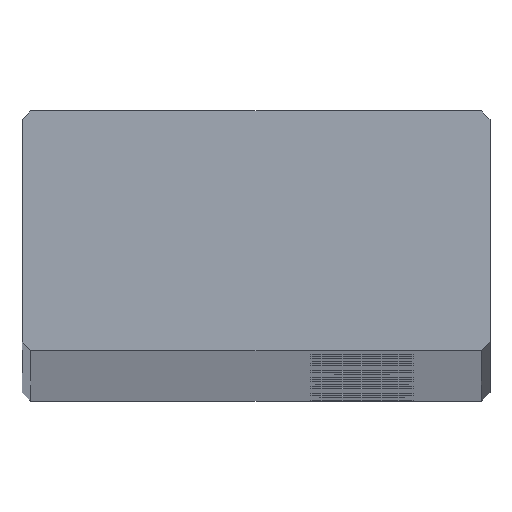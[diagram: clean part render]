
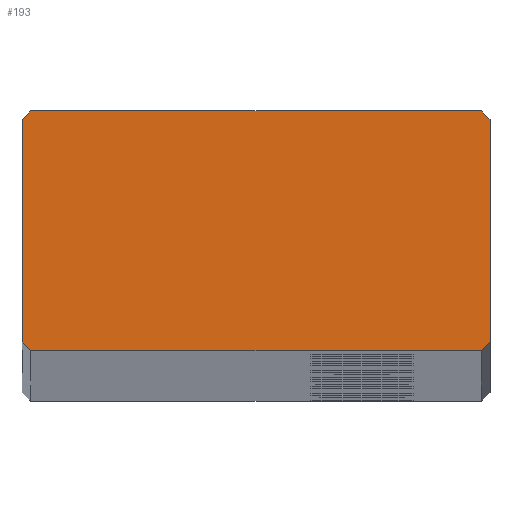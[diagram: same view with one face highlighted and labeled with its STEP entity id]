
A CAD part, top view. The second image highlights one B-rep face of the part: STEP entity #193.
In plain terms, the highlighted planar face has unit normal (0, 0, 1).
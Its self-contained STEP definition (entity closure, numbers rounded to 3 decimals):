
#193=ADVANCED_FACE('',(#498),#499,.T.);
#498=FACE_OUTER_BOUND('',#804,.T.);
#499=PLANE('',#805);
#804=EDGE_LOOP('',(#1722,#1723,#1724,#1725,#1726,#1727,#1728,#1729));
#805=AXIS2_PLACEMENT_3D('',#1730,#1731,#1732);
#1722=ORIENTED_EDGE('',*,*,#2008,.F.);
#1723=ORIENTED_EDGE('',*,*,#2030,.F.);
#1724=ORIENTED_EDGE('',*,*,#2027,.F.);
#1725=ORIENTED_EDGE('',*,*,#2024,.F.);
#1726=ORIENTED_EDGE('',*,*,#2021,.F.);
#1727=ORIENTED_EDGE('',*,*,#2018,.F.);
#1728=ORIENTED_EDGE('',*,*,#2015,.F.);
#1729=ORIENTED_EDGE('',*,*,#2012,.F.);
#1730=CARTESIAN_POINT('',(0.,8.2,1976.0));
#1731=DIRECTION('',(0.0,0.0,1.0));
#1732=DIRECTION('',(1.0,0.0,0.0));
#2008=EDGE_CURVE('',#2472,#2473,#2474,.T.);
#2012=EDGE_CURVE('',#2473,#2480,#2481,.T.);
#2015=EDGE_CURVE('',#2480,#2485,#2486,.T.);
#2018=EDGE_CURVE('',#2485,#2490,#2491,.T.);
#2021=EDGE_CURVE('',#2490,#2495,#2496,.T.);
#2024=EDGE_CURVE('',#2495,#2500,#2501,.T.);
#2027=EDGE_CURVE('',#2500,#2505,#2506,.T.);
#2030=EDGE_CURVE('',#2505,#2472,#2510,.T.);
#2472=VERTEX_POINT('',#3040);
#2473=VERTEX_POINT('',#3041);
#2474=LINE('',#3042,#3043);
#2480=VERTEX_POINT('',#3052);
#2481=LINE('',#3053,#3054);
#2485=VERTEX_POINT('',#3060);
#2486=LINE('',#3061,#3062);
#2490=VERTEX_POINT('',#3068);
#2491=LINE('',#3069,#3070);
#2495=VERTEX_POINT('',#3076);
#2496=LINE('',#3077,#3078);
#2500=VERTEX_POINT('',#3084);
#2501=LINE('',#3085,#3086);
#2505=VERTEX_POINT('',#3092);
#2506=LINE('',#3093,#3094);
#2510=LINE('',#3100,#3101);
#3040=CARTESIAN_POINT('',(-15.4,0.,1976.0));
#3041=CARTESIAN_POINT('',(-16.0,0.6,1976.0));
#3042=CARTESIAN_POINT('',(-15.4,0.,1976.0));
#3043=VECTOR('',#3720,1.0);
#3052=CARTESIAN_POINT('',(-16.0,15.8,1976.0));
#3053=CARTESIAN_POINT('',(-16.0,0.6,1976.0));
#3054=VECTOR('',#3724,1.0);
#3060=CARTESIAN_POINT('',(-15.4,16.4,1976.0));
#3061=CARTESIAN_POINT('',(-16.0,15.8,1976.0));
#3062=VECTOR('',#3727,1.0);
#3068=CARTESIAN_POINT('',(15.4,16.4,1976.0));
#3069=CARTESIAN_POINT('',(-15.4,16.4,1976.0));
#3070=VECTOR('',#3730,1.0);
#3076=CARTESIAN_POINT('',(16.0,15.8,1976.0));
#3077=CARTESIAN_POINT('',(15.4,16.4,1976.0));
#3078=VECTOR('',#3733,1.0);
#3084=CARTESIAN_POINT('',(16.0,0.6,1976.0));
#3085=CARTESIAN_POINT('',(16.0,0.6,1976.0));
#3086=VECTOR('',#3736,1.0);
#3092=CARTESIAN_POINT('',(15.4,0.,1976.0));
#3093=CARTESIAN_POINT('',(15.4,0.,1976.0));
#3094=VECTOR('',#3739,1.0);
#3100=CARTESIAN_POINT('',(-15.4,0.,1976.0));
#3101=VECTOR('',#3742,1.0);
#3720=DIRECTION('',(-0.707,0.707,0.0));
#3724=DIRECTION('',(0.0,1.0,0.0));
#3727=DIRECTION('',(0.707,0.707,0.0));
#3730=DIRECTION('',(1.0,0.0,0.0));
#3733=DIRECTION('',(0.707,-0.707,0.0));
#3736=DIRECTION('',(-0.0,-1.0,-0.0));
#3739=DIRECTION('',(-0.707,-0.707,-0.0));
#3742=DIRECTION('',(-1.0,-0.0,-0.0));
